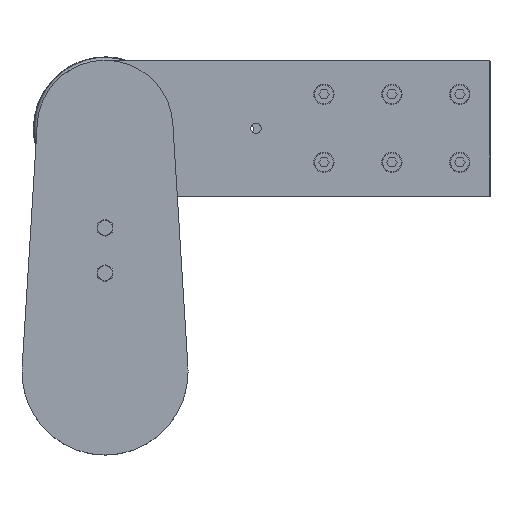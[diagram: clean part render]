
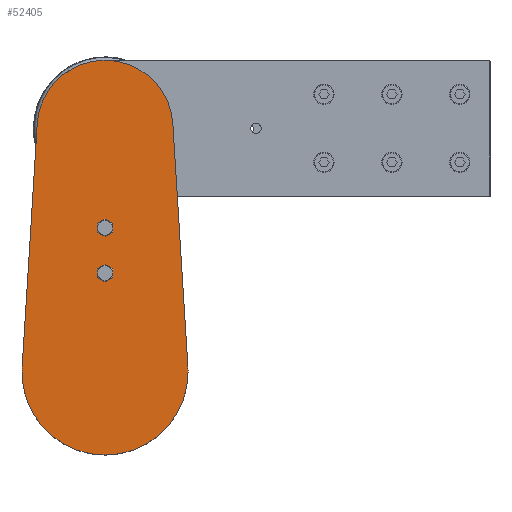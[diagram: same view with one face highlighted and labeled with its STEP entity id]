
A CAD part, top view. The second image highlights one B-rep face of the part: STEP entity #52405.
In plain terms, the highlighted planar face has unit normal (0, 0, 1) as drawn and (0, 0, -1) by its records, which use the part's own axes.
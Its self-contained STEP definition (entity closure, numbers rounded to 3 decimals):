
#2218 = CARTESIAN_POINT ( 'NONE',  ( 44.914, 164.286, 0. ) ) ;
#2276 = CARTESIAN_POINT ( 'NONE',  ( -3.5, 65.5, 0. ) ) ;
#2277 = CARTESIAN_POINT ( 'NONE',  ( 3.5, 65.5, 0. ) ) ;
#2279 = CARTESIAN_POINT ( 'NONE',  ( -3.5, 95.5, 0. ) ) ;
#2280 = CARTESIAN_POINT ( 'NONE',  ( 3.5, 95.5, 0. ) ) ;
#4111 = FACE_BOUND ( 'NONE', #17575, .T. ) ;
#4125 = DIRECTION ( 'NONE',  ( 0., 0., 1. ) ) ;
#4133 = CARTESIAN_POINT ( 'NONE',  ( 0., 161.5, 0. ) ) ;
#4136 = FACE_BOUND ( 'NONE', #17569, .T. ) ;
#4142 = FACE_OUTER_BOUND ( 'NONE', #17574, .T. ) ;
#4145 = PLANE ( 'NONE',  #44069 ) ;
#4150 = DIRECTION ( 'NONE',  ( 1., 0., 0. ) ) ;
#8576 = ORIENTED_EDGE ( 'NONE', *, *, #42366, .F. ) ;
#8577 = ORIENTED_EDGE ( 'NONE', *, *, #42325, .F. ) ;
#8578 = ORIENTED_EDGE ( 'NONE', *, *, #42362, .F. ) ;
#8579 = ORIENTED_EDGE ( 'NONE', *, *, #42324, .F. ) ;
#8580 = ORIENTED_EDGE ( 'NONE', *, *, #42336, .F. ) ;
#8581 = ORIENTED_EDGE ( 'NONE', *, *, #42327, .F. ) ;
#8582 = ORIENTED_EDGE ( 'NONE', *, *, #42349, .F. ) ;
#8583 = ORIENTED_EDGE ( 'NONE', *, *, #42345, .F. ) ;
#8584 = ORIENTED_EDGE ( 'NONE', *, *, #42328, .F. ) ;
#8667 = VERTEX_POINT ( 'NONE', #11844 ) ;
#8689 = VERTEX_POINT ( 'NONE', #11866 ) ;
#8690 = VERTEX_POINT ( 'NONE', #11867 ) ;
#8839 = VERTEX_POINT ( 'NONE', #12016 ) ;
#8863 = VERTEX_POINT ( 'NONE', #12040 ) ;
#10110 = ORIENTED_EDGE ( 'NONE', *, *, #42332, .F. ) ;
#11844 = CARTESIAN_POINT ( 'NONE',  ( -54.894, 3.406, 0. ) ) ;
#11866 = CARTESIAN_POINT ( 'NONE',  ( 55., 0., 0. ) ) ;
#11867 = CARTESIAN_POINT ( 'NONE',  ( -44.914, 164.286, 0. ) ) ;
#12016 = CARTESIAN_POINT ( 'NONE',  ( 54.894, 3.406, 0. ) ) ;
#12040 = CARTESIAN_POINT ( 'NONE',  ( -55., 0., 0. ) ) ;
#17569 = EDGE_LOOP ( 'NONE', ( #8576, #8577 ) ) ;
#17574 = EDGE_LOOP ( 'NONE', ( #8580, #8581, #8582, #8583, #8584, #10110 ) ) ;
#17575 = EDGE_LOOP ( 'NONE', ( #8578, #8579 ) ) ;
#21900 = VERTEX_POINT ( 'NONE', #2218 ) ;
#21958 = VERTEX_POINT ( 'NONE', #2276 ) ;
#21959 = VERTEX_POINT ( 'NONE', #2277 ) ;
#21962 = VERTEX_POINT ( 'NONE', #2279 ) ;
#21963 = VERTEX_POINT ( 'NONE', #2280 ) ;
#30500 = CARTESIAN_POINT ( 'NONE',  ( 0., 65.5, 0. ) ) ;
#30502 = DIRECTION ( 'NONE',  ( 0., 0., -1. ) ) ;
#30504 = DIRECTION ( 'NONE',  ( 1., 0., 0. ) ) ;
#30507 = LINE ( 'NONE', #30517, #31331 ) ;
#30508 = CARTESIAN_POINT ( 'NONE',  ( 0., 95.5, 0. ) ) ;
#30510 = DIRECTION ( 'NONE',  ( 0., 0., -1. ) ) ;
#30512 = DIRECTION ( 'NONE',  ( 1., 0., 0. ) ) ;
#30517 = CARTESIAN_POINT ( 'NONE',  ( 44.914, 164.286, 0. ) ) ;
#30520 = DIRECTION ( 'NONE',  ( -0.062, 0.998, 0. ) ) ;
#30528 = CARTESIAN_POINT ( 'NONE',  ( 0., 0., 0. ) ) ;
#30529 = DIRECTION ( 'NONE',  ( 0., 0., 1. ) ) ;
#30531 = DIRECTION ( 'NONE',  ( 1., 0., 0. ) ) ;
#30550 = LINE ( 'NONE', #30554, #31320 ) ;
#30554 = CARTESIAN_POINT ( 'NONE',  ( -44.914, 164.286, 0. ) ) ;
#30556 = DIRECTION ( 'NONE',  ( -0.062, -0.998, 0. ) ) ;
#30580 = CARTESIAN_POINT ( 'NONE',  ( 0., 161.5, 0. ) ) ;
#30581 = DIRECTION ( 'NONE',  ( 0., 0., 1. ) ) ;
#30583 = DIRECTION ( 'NONE',  ( 1., 0., 0. ) ) ;
#30646 = CARTESIAN_POINT ( 'NONE',  ( 0., 0., 0. ) ) ;
#30648 = DIRECTION ( 'NONE',  ( 0., 0., 1. ) ) ;
#30650 = DIRECTION ( 'NONE',  ( 1., 0., 0. ) ) ;
#30673 = CARTESIAN_POINT ( 'NONE',  ( 0., 0., 0. ) ) ;
#30675 = DIRECTION ( 'NONE',  ( 0., 0., 1. ) ) ;
#30677 = DIRECTION ( 'NONE',  ( 1., 0., 0. ) ) ;
#30760 = CARTESIAN_POINT ( 'NONE',  ( 0., 65.5, 0. ) ) ;
#30762 = DIRECTION ( 'NONE',  ( 0., 0., -1. ) ) ;
#30764 = DIRECTION ( 'NONE',  ( 1., 0., 0. ) ) ;
#30788 = CARTESIAN_POINT ( 'NONE',  ( 0., 95.5, 0. ) ) ;
#30790 = DIRECTION ( 'NONE',  ( 0., 0., -1. ) ) ;
#30791 = DIRECTION ( 'NONE',  ( 1., 0., 0. ) ) ;
#31263 = AXIS2_PLACEMENT_3D ( 'NONE', #30788, #30790, #30791 ) ;
#31265 = CIRCLE ( 'NONE', #31263, 3.5 ) ;
#31269 = AXIS2_PLACEMENT_3D ( 'NONE', #30760, #30762, #30764 ) ;
#31273 = CIRCLE ( 'NONE', #31269, 3.5 ) ;
#31291 = AXIS2_PLACEMENT_3D ( 'NONE', #30673, #30675, #30677 ) ;
#31293 = CIRCLE ( 'NONE', #31291, 55. ) ;
#31297 = AXIS2_PLACEMENT_3D ( 'NONE', #30646, #30648, #30650 ) ;
#31300 = CIRCLE ( 'NONE', #31297, 55. ) ;
#31313 = AXIS2_PLACEMENT_3D ( 'NONE', #30580, #30581, #30583 ) ;
#31315 = CIRCLE ( 'NONE', #31313, 45. ) ;
#31320 = VECTOR ( 'NONE', #30556, 1000. ) ;
#31324 = AXIS2_PLACEMENT_3D ( 'NONE', #30528, #30529, #30531 ) ;
#31327 = CIRCLE ( 'NONE', #31324, 55. ) ;
#31328 = AXIS2_PLACEMENT_3D ( 'NONE', #30508, #30510, #30512 ) ;
#31330 = AXIS2_PLACEMENT_3D ( 'NONE', #30500, #30502, #30504 ) ;
#31331 = VECTOR ( 'NONE', #30520, 1000. ) ;
#31332 = CIRCLE ( 'NONE', #31328, 3.5 ) ;
#31338 = CIRCLE ( 'NONE', #31330, 3.5 ) ;
#42324 = EDGE_CURVE ( 'NONE', #21958, #21959, #31338, .T. ) ;
#42325 = EDGE_CURVE ( 'NONE', #21962, #21963, #31332, .T. ) ;
#42327 = EDGE_CURVE ( 'NONE', #8839, #21900, #30507, .T. ) ;
#42328 = EDGE_CURVE ( 'NONE', #8667, #8863, #31327, .T. ) ;
#42332 = EDGE_CURVE ( 'NONE', #8690, #8667, #30550, .T. ) ;
#42336 = EDGE_CURVE ( 'NONE', #21900, #8690, #31315, .T. ) ;
#42345 = EDGE_CURVE ( 'NONE', #8863, #8689, #31300, .T. ) ;
#42349 = EDGE_CURVE ( 'NONE', #8689, #8839, #31293, .T. ) ;
#42362 = EDGE_CURVE ( 'NONE', #21959, #21958, #31273, .T. ) ;
#42366 = EDGE_CURVE ( 'NONE', #21963, #21962, #31265, .T. ) ;
#44069 = AXIS2_PLACEMENT_3D ( 'NONE', #4133, #4125, #4150 ) ;
#52405 = ADVANCED_FACE ( 'NONE', ( #4136, #4111, #4142 ), #4145, .F. ) ;
